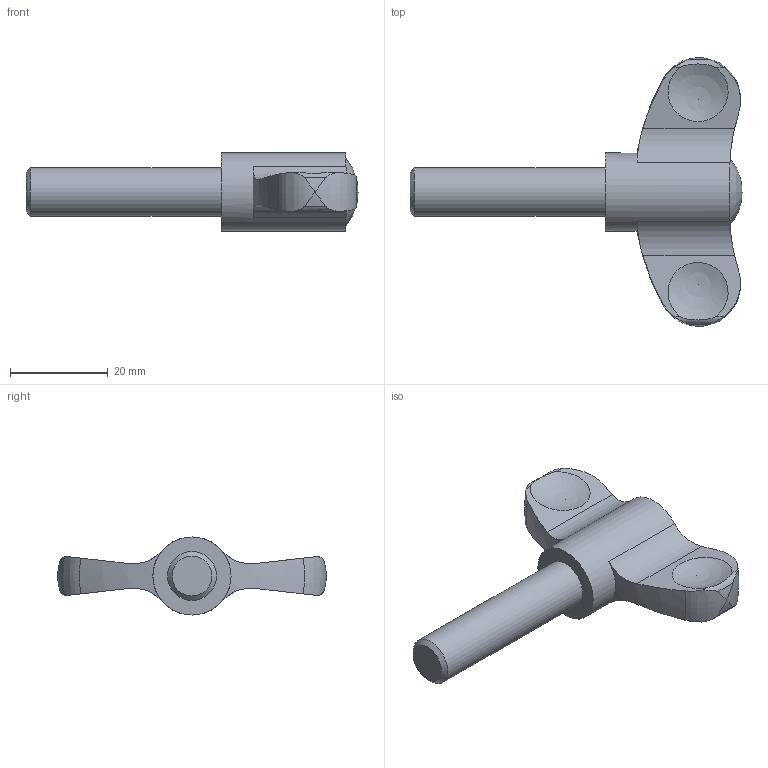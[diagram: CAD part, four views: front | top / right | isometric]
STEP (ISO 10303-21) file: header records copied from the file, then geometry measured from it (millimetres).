
FILE_DESCRIPTION( ( 'STEP AP203' ), '1' );
FILE_NAME( 'C:/Temp/Ganter_Step_05_03_2020/data/2_2/gn_633/Wing nut GN 633-55-M10-40-DOR.stp', '2020-03-05T12:21:10', ( 'License CC BY-ND 4.0' ), ( 'CADENAS' ), ' ', 'PARTsolutions', ' ' );
FILE_SCHEMA( ( 'CONFIG_CONTROL_DESIGN' ) );
Length unit declared in the file: millimetre
Products named in the file (1): _Wing nut GN 633-55-M10-40-DOR
Bounding box: 68 x 55 x 16 mm (x, y, z)
Volume: 12220.3 mm3; surface area: 4669.1 mm2
Topology: 1 solids, 1 shells, 31 faces, 97 edges, 64 vertices
Faces by surface type: cylinder 14, plane 6, bspline 4, sphere 4, torus 2, cone 1
Full cylindrical faces by diameter (mm): 10 x1, 16 x1
Entity records: 1486 total; most frequent: CARTESIAN_POINT 754, ORIENTED_EDGE 154, DIRECTION 110, EDGE_CURVE 77, VERTEX_POINT 59, AXIS2_PLACEMENT_3D 45, B_SPLINE_CURVE_WITH_KNOTS 40, EDGE_LOOP 36
